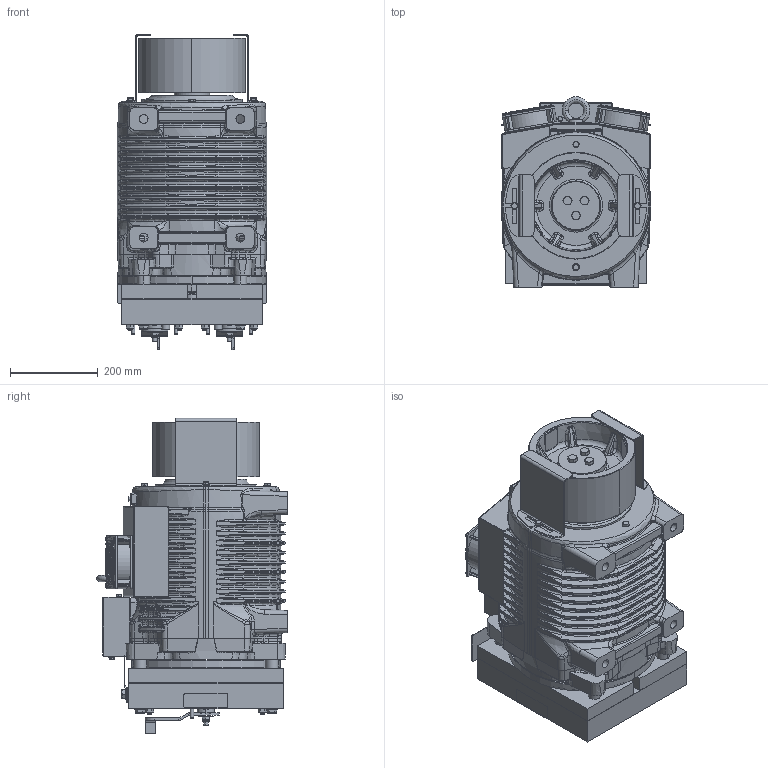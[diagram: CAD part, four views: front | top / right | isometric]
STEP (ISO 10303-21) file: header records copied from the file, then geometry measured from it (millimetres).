
FILE_DESCRIPTION((''),'2;1');
FILE_NAME('00363504_ASM','2020-05-29T',('furlanis'),('Sicor spa'),'CREO PARAMETRIC BY PTC INC, 2017170','CREO PARAMETRIC BY PTC INC, 2017170','');
FILE_SCHEMA(('CONFIG_CONTROL_DESIGN'));
Products named in the file (4): SG48HF; _240_125; _240; 00363504_ASM
Assembly tree (4 placements, depth 2):
  00363504_ASM
    SG48HF
    _240_125
    _240  x2
Bounding box: 340.21 x 433.5 x 717.34 mm (x, y, z)
Volume: 2980740.2 mm3; surface area: 3223632.5 mm2
Topology: 3 solids, 379 shells, 4531 faces, 14561 edges, 10083 vertices
Faces by surface type: plane 1515, cylinder 1196, bspline 911, torus 474, cone 405, sphere 26, revolution 4
Entity records: 241409 total; most frequent: CARTESIAN_POINT 127678, ORIENTED_EDGE 22905, DIRECTION 20784, EDGE_CURVE 14425, VERTEX_POINT 10019, AXIS2_PLACEMENT_3D 7206, VECTOR 6368, LINE 6368
